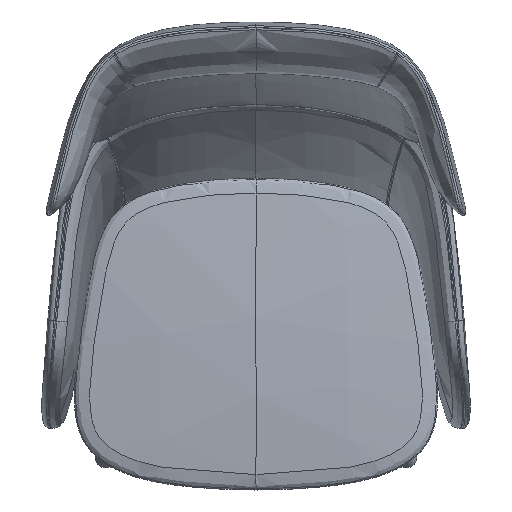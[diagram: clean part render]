
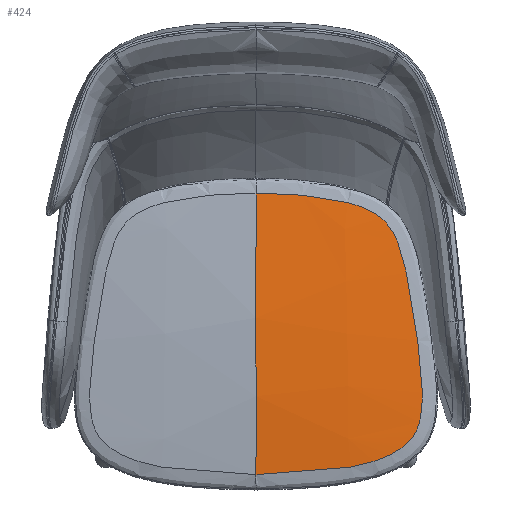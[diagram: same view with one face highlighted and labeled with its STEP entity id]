
A CAD part, top view. The second image highlights one B-rep face of the part: STEP entity #424.
In plain terms, the highlighted free-form (B-spline) face has degree [3, 3] with [9, 5] control points.
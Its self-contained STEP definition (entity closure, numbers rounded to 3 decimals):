
#424=ADVANCED_FACE('',(#666),#3420,.T.);
#666=FACE_OUTER_BOUND('',#908,.T.);
#908=EDGE_LOOP('',(#1667,#1668));
#1667=ORIENTED_EDGE('',*,*,#2365,.T.);
#1668=ORIENTED_EDGE('',*,*,#2364,.T.);
#2364=EDGE_CURVE('',#3180,#3179,#2829,.T.);
#2365=EDGE_CURVE('',#3179,#3180,#2830,.T.);
#2829=B_SPLINE_CURVE_WITH_KNOTS('',3,(#26065,#26066,#26067,#26068,#26069,
#26070,#26071,#26072,#26073),.UNSPECIFIED.,.F.,.F.,(4,1,1,1,1,1,4),(-474.18,
-417.247,-333.797,-250.348,-166.899,-83.449,
-27.123),.UNSPECIFIED.);
#2830=B_SPLINE_CURVE_WITH_KNOTS('',3,(#26074,#26075,#26076,#26077,#26078,
#26079,#26080,#26081,#26082,#26083,#26084,#26085,#26086,#26087,#26088,#26089,
#26090,#26091,#26092,#26093,#26094,#26095,#26096,#26097,#26098,#26099,#26100,
#26101,#26102,#26103,#26104,#26105,#26106,#26107,#26108,#26109,#26110,#26111),
 .UNSPECIFIED.,.F.,.F.,(4,1,1,1,1,1,1,1,1,1,1,1,1,1,1,1,1,1,1,1,1,1,1,1,
1,1,1,1,1,1,1,1,1,1,1,4),(0.,74.102,112.748,154.424,
192.525,214.792,232.095,245.22,256.268,
263.231,270.492,282.04,294.959,312.087,
324.989,345.938,375.178,394.6,433.998,
474.064,495.025,522.099,558.984,574.441,
583.826,599.863,611.407,622.834,635.318,
648.378,662.906,685.56,722.309,760.825,
798.113,834.844),.UNSPECIFIED.);
#3179=VERTEX_POINT('',#25951);
#3180=VERTEX_POINT('',#25952);
#3420=B_SPLINE_SURFACE_WITH_KNOTS('',3,3,((#25023,#25024,#25025,#25026,
#25027),(#25028,#25029,#25030,#25031,#25032),(#25033,#25034,#25035,#25036,
#25037),(#25038,#25039,#25040,#25041,#25042),(#25043,#25044,#25045,#25046,
#25047),(#25048,#25049,#25050,#25051,#25052),(#25053,#25054,#25055,#25056,
#25057),(#25058,#25059,#25060,#25061,#25062),(#25063,#25064,#25065,#25066,
#25067)),.UNSPECIFIED.,.F.,.F.,.F.,(4,1,1,1,1,1,4),(4,1,4),(0.,83.449,
166.899,250.348,333.797,417.247,500.696),
(0.,142.741,285.482),.UNSPECIFIED.);
#25023=CARTESIAN_POINT('',(293.441,-301.219,409.758));
#25024=CARTESIAN_POINT('',(244.578,-302.117,412.027));
#25025=CARTESIAN_POINT('',(146.791,-303.464,415.43));
#25026=CARTESIAN_POINT('',(48.931,-303.914,416.565));
#25027=CARTESIAN_POINT('',(0.,-303.914,416.565));
#25028=CARTESIAN_POINT('',(293.711,-273.582,409.792));
#25029=CARTESIAN_POINT('',(244.804,-274.409,412.966));
#25030=CARTESIAN_POINT('',(146.927,-275.649,417.729));
#25031=CARTESIAN_POINT('',(48.977,-276.062,419.318));
#25032=CARTESIAN_POINT('',(0.,-276.062,419.317));
#25033=CARTESIAN_POINT('',(293.865,-218.31,409.399));
#25034=CARTESIAN_POINT('',(244.933,-218.924,413.883));
#25035=CARTESIAN_POINT('',(147.006,-219.846,420.61));
#25036=CARTESIAN_POINT('',(49.003,-220.153,422.853));
#25037=CARTESIAN_POINT('',(0.,-220.153,422.853));
#25038=CARTESIAN_POINT('',(292.931,-135.39,407.431));
#25039=CARTESIAN_POINT('',(244.156,-135.651,412.767));
#25040=CARTESIAN_POINT('',(146.541,-136.042,420.772));
#25041=CARTESIAN_POINT('',(48.848,-136.173,423.44));
#25042=CARTESIAN_POINT('',(0.,-136.173,423.44));
#25043=CARTESIAN_POINT('',(290.831,-52.536,404.084));
#25044=CARTESIAN_POINT('',(242.408,-52.43,409.567));
#25045=CARTESIAN_POINT('',(145.493,-52.272,417.794));
#25046=CARTESIAN_POINT('',(48.499,-52.219,420.537));
#25047=CARTESIAN_POINT('',(0.,-52.219,420.537));
#25048=CARTESIAN_POINT('',(287.567,30.218,399.359));
#25049=CARTESIAN_POINT('',(239.689,30.677,404.709));
#25050=CARTESIAN_POINT('',(143.864,31.367,412.736));
#25051=CARTESIAN_POINT('',(47.956,31.597,415.412));
#25052=CARTESIAN_POINT('',(0.,31.597,415.412));
#25053=CARTESIAN_POINT('',(283.142,112.812,393.26));
#25054=CARTESIAN_POINT('',(236.003,113.595,397.804));
#25055=CARTESIAN_POINT('',(141.653,114.77,404.62));
#25056=CARTESIAN_POINT('',(47.219,115.162,406.893));
#25057=CARTESIAN_POINT('',(0.,115.162,406.893));
#25058=CARTESIAN_POINT('',(279.422,167.712,388.284));
#25059=CARTESIAN_POINT('',(232.904,168.64,391.569));
#25060=CARTESIAN_POINT('',(139.795,170.031,396.498));
#25061=CARTESIAN_POINT('',(46.6,170.496,398.142));
#25062=CARTESIAN_POINT('',(0.,170.496,398.142));
#25063=CARTESIAN_POINT('',(277.369,195.13,385.568));
#25064=CARTESIAN_POINT('',(231.193,196.077,387.984));
#25065=CARTESIAN_POINT('',(138.769,197.5,391.611));
#25066=CARTESIAN_POINT('',(46.258,197.974,392.821));
#25067=CARTESIAN_POINT('',(0.,197.974,392.821));
#25951=CARTESIAN_POINT('',(0.,-276.727,418.944));
#25952=CARTESIAN_POINT('',(0.,171.726,397.613));
#26065=CARTESIAN_POINT('',(0.,171.726,397.613));
#26066=CARTESIAN_POINT('',(0.,152.904,400.845));
#26067=CARTESIAN_POINT('',(0.,106.311,407.796));
#26068=CARTESIAN_POINT('',(0.,31.597,415.412));
#26069=CARTESIAN_POINT('',(0.,-52.219,420.537));
#26070=CARTESIAN_POINT('',(0.,-136.173,423.441));
#26071=CARTESIAN_POINT('',(0.,-211.055,422.917));
#26072=CARTESIAN_POINT('',(0.,-257.889,420.384));
#26073=CARTESIAN_POINT('',(0.,-276.727,418.944));
#26074=CARTESIAN_POINT('',(0.,-276.727,418.944));
#26075=CARTESIAN_POINT('',(24.702,-276.734,418.942));
#26076=CARTESIAN_POINT('',(62.281,-275.434,418.746));
#26077=CARTESIAN_POINT('',(113.565,-270.917,417.979));
#26078=CARTESIAN_POINT('',(152.657,-265.314,417.096));
#26079=CARTESIAN_POINT('',(185.712,-257.06,416.062));
#26080=CARTESIAN_POINT('',(209.837,-247.593,415.075));
#26081=CARTESIAN_POINT('',(225.332,-239.279,414.308));
#26082=CARTESIAN_POINT('',(236.602,-231.254,413.657));
#26083=CARTESIAN_POINT('',(244.145,-224.096,413.159));
#26084=CARTESIAN_POINT('',(249.409,-217.515,412.769));
#26085=CARTESIAN_POINT('',(253.974,-210.23,412.395));
#26086=CARTESIAN_POINT('',(258.304,-200.554,411.975));
#26087=CARTESIAN_POINT('',(262.075,-187.191,411.492));
#26088=CARTESIAN_POINT('',(264.173,-173.007,411.057));
#26089=CARTESIAN_POINT('',(265.179,-156.044,410.591));
#26090=CARTESIAN_POINT('',(265.,-135.008,410.042));
#26091=CARTESIAN_POINT('',(263.236,-111.868,409.435));
#26092=CARTESIAN_POINT('',(260.014,-82.704,408.592));
#26093=CARTESIAN_POINT('',(255.737,-50.037,407.476));
#26094=CARTESIAN_POINT('',(250.667,-16.975,406.102));
#26095=CARTESIAN_POINT('',(245.782,11.95,404.7));
#26096=CARTESIAN_POINT('',(240.733,39.757,403.187));
#26097=CARTESIAN_POINT('',(235.112,65.602,401.593));
#26098=CARTESIAN_POINT('',(228.979,85.215,400.331));
#26099=CARTESIAN_POINT('',(224.098,97.915,399.513));
#26100=CARTESIAN_POINT('',(218.705,109.007,398.812));
#26101=CARTESIAN_POINT('',(211.38,119.766,398.19));
#26102=CARTESIAN_POINT('',(203.468,128.575,397.735));
#26103=CARTESIAN_POINT('',(193.965,136.463,397.399));
#26104=CARTESIAN_POINT('',(182.55,143.457,397.185));
#26105=CARTESIAN_POINT('',(167.24,150.318,397.086));
#26106=CARTESIAN_POINT('',(143.677,157.678,397.131));
#26107=CARTESIAN_POINT('',(111.593,163.886,397.338));
#26108=CARTESIAN_POINT('',(74.341,168.421,397.522));
#26109=CARTESIAN_POINT('',(36.918,171.155,397.596));
#26110=CARTESIAN_POINT('',(12.243,171.725,397.613));
#26111=CARTESIAN_POINT('',(0.,171.726,397.613));
